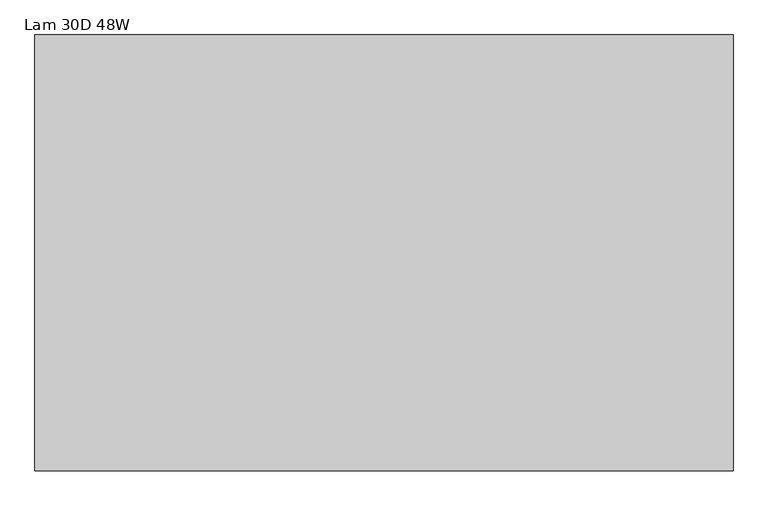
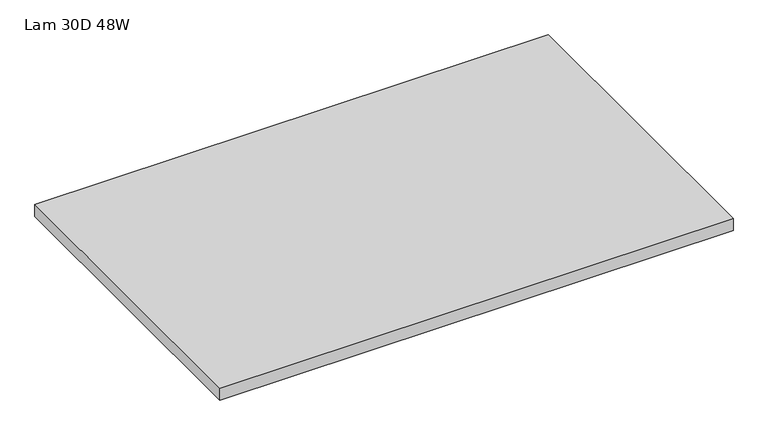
"""IFC4 building model written with IfcOpenShell, lengths in millimetres: furniture geometry, HermanMiller_CoStruc_C4700_RectangularWorkTableSurface : Lam 30D 48W."""

from ifc_helpers import new_model, si_unit, frame, origin, place, context, project, spatial, polyline, outline, extrude, source, transform, mapped, element, save


def lam_30d_48w_acbebbb6(model_context):
    return source(origin(), model_context, "Body", "SweptSolid", [
        extrude(outline(polyline([(1219.1999999, -3.0467299), (1219.1999999, -762.0), (3.1750001, -762.0), (3.1750001, -3.0467299), (1219.1999999, -3.0467299)])), frame((0.0, 0.0, 884.428), z_axis=(0.0, 0.0, 1.0), x_axis=(1.0, 0.0, 0.0)), (0.0, 0.0, 1.0), 29.972),
    ])


if __name__ == "__main__":
    model = new_model("IFC4")
    model_context = context("Model", 3, world=origin())
    ifc_project = project(units=[si_unit("LENGTHUNIT", "METRE", prefix="MILLI")], contexts=[model_context])
    site = spatial("IfcSite", under=ifc_project)
    building = spatial("IfcBuilding", under=site)
    placement = place(None, origin())
    lam_30d_48w_shape = lam_30d_48w_acbebbb6(model_context)
    element("IfcFurniture", 1, ObjectType="HermanMiller_CoStruc_C4700_RectangularWorkTableSurface : Lam 30D 48W", at=placement, inside=building, context=model_context, shape_type="MappedRepresentation", body=[
        mapped(lam_30d_48w_shape, transform((0.0, 0.0, 0.0), x_axis=(1.0, 0.0, 0.0), y_axis=(0.0, 1.0, 0.0), z_axis=(0.0, 0.0, 1.0))),
    ])
    save(model, "model.ifc")
